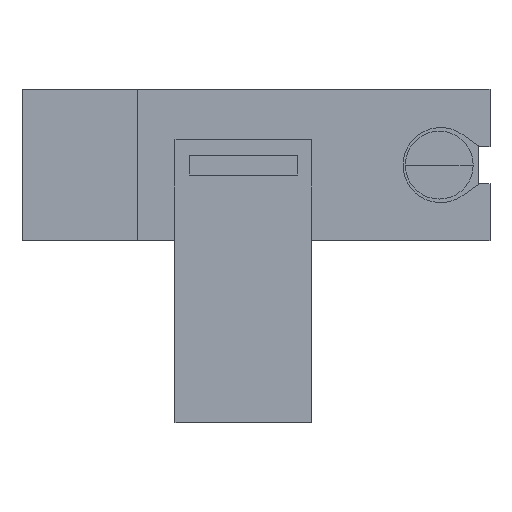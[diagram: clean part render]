
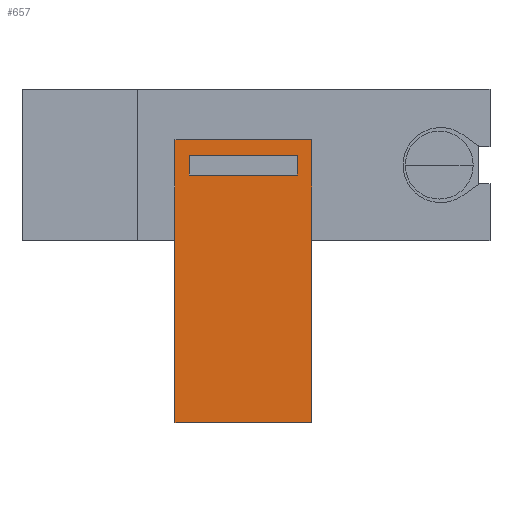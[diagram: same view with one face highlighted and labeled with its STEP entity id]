
A CAD part, front view. The second image highlights one B-rep face of the part: STEP entity #657.
In plain terms, the highlighted planar face has unit normal (0, -1, 0).
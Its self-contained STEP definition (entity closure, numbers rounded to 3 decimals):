
#553 = VERTEX_POINT('',#554);
#554 = CARTESIAN_POINT('',(-19.,-290.,78.5
    ));
#560 = EDGE_CURVE('',#553,#561,#563,.T.);
#561 = VERTEX_POINT('',#562);
#562 = CARTESIAN_POINT('',(19.,-290.,78.5
    ));
#563 = LINE('',#564,#565);
#564 = CARTESIAN_POINT('',(-19.,-290.,78.5
    ));
#565 = VECTOR('',#566,1.);
#566 = DIRECTION('',(1.,0.,0.));
#585 = VERTEX_POINT('',#586);
#586 = CARTESIAN_POINT('',(19.,-290.,
    0.));
#592 = EDGE_CURVE('',#585,#593,#595,.T.);
#593 = VERTEX_POINT('',#594);
#594 = CARTESIAN_POINT('',(-19.,-290.,
    0.));
#595 = LINE('',#596,#597);
#596 = CARTESIAN_POINT('',(19.,-290.,
    0.));
#597 = VECTOR('',#598,1.);
#598 = DIRECTION('',(-1.,0.,0.));
#647 = EDGE_CURVE('',#593,#553,#648,.T.);
#648 = LINE('',#649,#650);
#649 = CARTESIAN_POINT('',(-19.,-290.,78.5
    ));
#650 = VECTOR('',#651,1.);
#651 = DIRECTION('',(0.,0.,1.));
#657 = ADVANCED_FACE('',(#658),#669,.T.);
#658 = FACE_BOUND('',#659,.T.);
#659 = EDGE_LOOP('',(#660,#661,#662,#663));
#660 = ORIENTED_EDGE('',*,*,#560,.F.);
#661 = ORIENTED_EDGE('',*,*,#647,.F.);
#662 = ORIENTED_EDGE('',*,*,#592,.F.);
#663 = ORIENTED_EDGE('',*,*,#664,.T.);
#664 = EDGE_CURVE('',#585,#561,#665,.T.);
#665 = LINE('',#666,#667);
#666 = CARTESIAN_POINT('',(19.,-290.,78.5
    ));
#667 = VECTOR('',#668,1.);
#668 = DIRECTION('',(0.,0.,1.));
#669 = PLANE('',#670);
#670 = AXIS2_PLACEMENT_3D('',#671,#672,#673);
#671 = CARTESIAN_POINT('',(-19.,-290.,78.5
    ));
#672 = DIRECTION('',(0.,-1.,0.));
#673 = DIRECTION('',(0.,0.,-1.));
